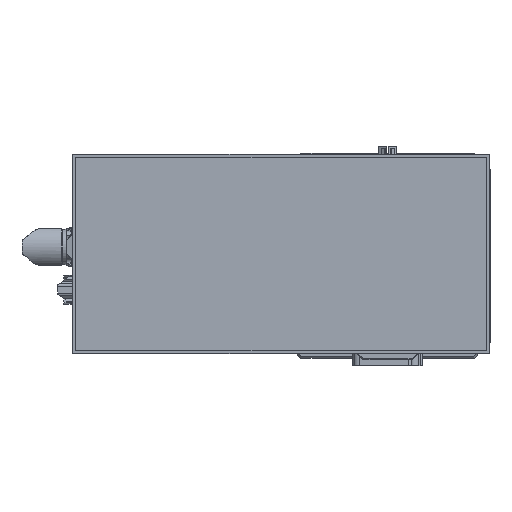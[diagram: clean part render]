
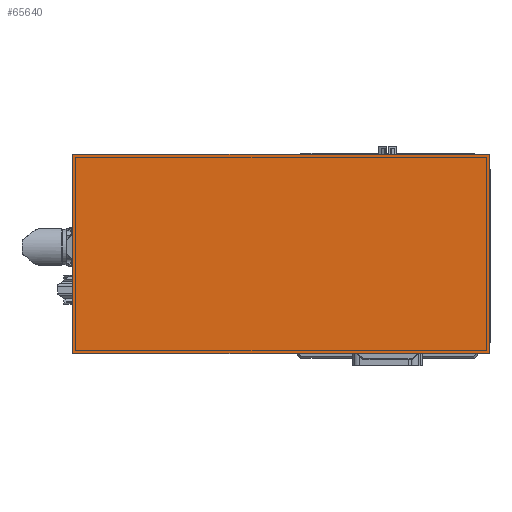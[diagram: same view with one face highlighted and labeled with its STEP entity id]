
A CAD part, top view. The second image highlights one B-rep face of the part: STEP entity #65640.
In plain terms, the highlighted planar face has unit normal (0, 0, 1).
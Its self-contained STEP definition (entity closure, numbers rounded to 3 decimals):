
#65601=CARTESIAN_POINT('',(-75.5,-77.,621.));
#65602=DIRECTION('',(0.,-1.,0.));
#65603=DIRECTION('',(-0.,0.,1.));
#65604=AXIS2_PLACEMENT_3D('',#65601,#65603,#65602);
#65605=PLANE('',#65604);
#65606=CARTESIAN_POINT('',(72.,70.5,621.));
#65607=VERTEX_POINT('',#65606);
#65608=CARTESIAN_POINT('',(-223.,70.5,621.));
#65609=VERTEX_POINT('',#65608);
#65610=CARTESIAN_POINT('',(72.,70.5,621.));
#65611=DIRECTION('',(-1.,0.,0.));
#65612=VECTOR('',#65611,295.);
#65613=LINE('',#65610,#65612);
#65614=EDGE_CURVE('',#65607,#65609,#65613,.T.);
#65615=ORIENTED_EDGE('E8968',*,*,#65614,.T.);
#65616=CARTESIAN_POINT('',(-223.,-70.5,621.));
#65617=VERTEX_POINT('',#65616);
#65618=CARTESIAN_POINT('',(-223.,70.5,621.));
#65619=DIRECTION('',(0.,-1.,0.));
#65620=VECTOR('',#65619,141.);
#65621=LINE('',#65618,#65620);
#65622=EDGE_CURVE('',#65609,#65617,#65621,.T.);
#65623=ORIENTED_EDGE('E8969',*,*,#65622,.T.);
#65624=CARTESIAN_POINT('',(72.,-70.5,621.));
#65625=VERTEX_POINT('',#65624);
#65626=CARTESIAN_POINT('',(-223.,-70.5,621.));
#65627=DIRECTION('',(1.,0.,0.));
#65628=VECTOR('',#65627,295.);
#65629=LINE('',#65626,#65628);
#65630=EDGE_CURVE('',#65617,#65625,#65629,.T.);
#65631=ORIENTED_EDGE('E8970',*,*,#65630,.T.);
#65632=CARTESIAN_POINT('',(72.,-70.5,621.));
#65633=DIRECTION('',(0.,1.,0.));
#65634=VECTOR('',#65633,141.);
#65635=LINE('',#65632,#65634);
#65636=EDGE_CURVE('',#65625,#65607,#65635,.T.);
#65637=ORIENTED_EDGE('E8971',*,*,#65636,.T.);
#65638=EDGE_LOOP('',(#65615,#65623,#65631,#65637));
#65639=FACE_OUTER_BOUND('',#65638,.T.);
#65640=ADVANCED_FACE('F3491',(#65639),#65605,.T.);
